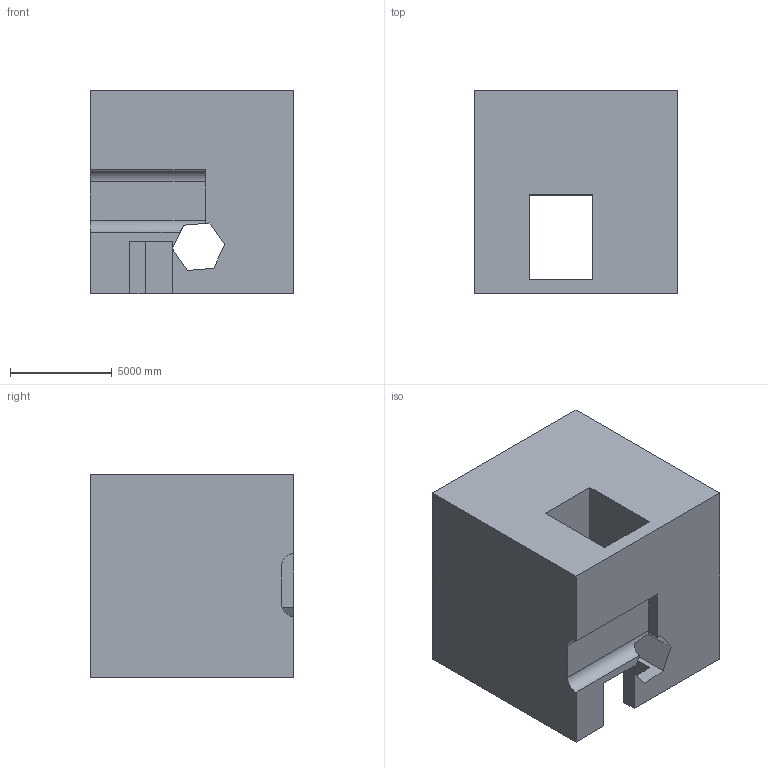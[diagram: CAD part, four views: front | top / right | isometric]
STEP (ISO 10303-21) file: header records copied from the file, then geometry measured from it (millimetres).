
FILE_DESCRIPTION (( 'STEP AP203' ), '1' );
FILE_NAME ('386.STEP', '2022-07-29T11:05:06', ( 'user' ), ( '' ), 'SwSTEP 2.0', 'SolidWorks 2021', '' );
FILE_SCHEMA (( 'CONFIG_CONTROL_DESIGN' ));
Length unit declared in the file: centimetre
Products named in the file (1): 386
Bounding box: 10000 x 10000 x 10000 mm (x, y, z)
Volume: 821171137703.5 mm3; surface area: 751304988.9 mm2
Topology: 1 solids, 1 shells, 30 faces, 90 edges, 60 vertices
Faces by surface type: plane 28, cylinder 2
Entity records: 1083 total; most frequent: CARTESIAN_POINT 187, ORIENTED_EDGE 180, DIRECTION 154, EDGE_CURVE 90, LINE 84, VECTOR 84, VERTEX_POINT 60, AXIS2_PLACEMENT_3D 35
